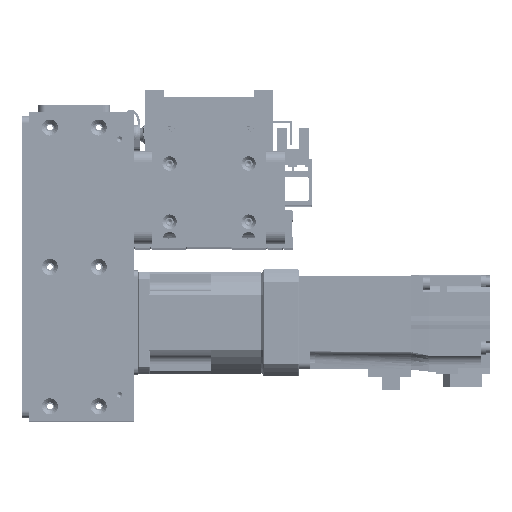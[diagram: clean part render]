
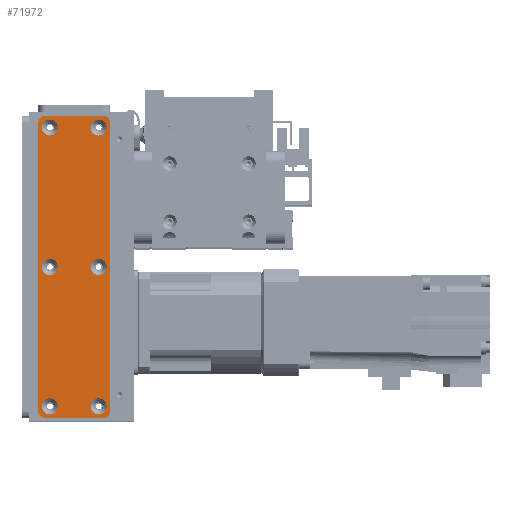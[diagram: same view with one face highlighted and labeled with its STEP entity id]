
A CAD part, top view. The second image highlights one B-rep face of the part: STEP entity #71972.
In plain terms, the highlighted planar face has unit normal (0, 0, 1).
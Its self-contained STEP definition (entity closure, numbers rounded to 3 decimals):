
#1890=FACE_BOUND('',#12620,.T.);
#1891=FACE_BOUND('',#12621,.T.);
#1892=FACE_BOUND('',#12622,.T.);
#1893=FACE_BOUND('',#12623,.T.);
#1894=FACE_BOUND('',#12624,.T.);
#1895=FACE_BOUND('',#12625,.T.);
#4382=PLANE('',#79078);
#8147=FACE_OUTER_BOUND('',#12619,.T.);
#12619=EDGE_LOOP('',(#67223,#67224,#67225,#67226,#67227,#67228,#67229,#67230));
#12620=EDGE_LOOP('',(#67231));
#12621=EDGE_LOOP('',(#67232));
#12622=EDGE_LOOP('',(#67233));
#12623=EDGE_LOOP('',(#67234));
#12624=EDGE_LOOP('',(#67235));
#12625=EDGE_LOOP('',(#67236));
#15285=CIRCLE('',#79032,3.45);
#15288=CIRCLE('',#79037,3.45);
#15291=CIRCLE('',#79042,3.45);
#15294=CIRCLE('',#79047,3.45);
#15297=CIRCLE('',#79052,3.45);
#15300=CIRCLE('',#79057,3.45);
#15307=CIRCLE('',#79067,3.);
#15308=CIRCLE('',#79070,3.);
#15309=CIRCLE('',#79073,3.);
#15310=CIRCLE('',#79076,3.);
#22685=LINE('',#124133,#30069);
#22688=LINE('',#124141,#30072);
#22691=LINE('',#124149,#30075);
#22694=LINE('',#124156,#30078);
#30069=VECTOR('',#98912,10.);
#30072=VECTOR('',#98921,10.);
#30075=VECTOR('',#98930,10.);
#30078=VECTOR('',#98939,10.);
#36744=VERTEX_POINT('',#124049);
#36747=VERTEX_POINT('',#124059);
#36750=VERTEX_POINT('',#124069);
#36753=VERTEX_POINT('',#124079);
#36756=VERTEX_POINT('',#124089);
#36759=VERTEX_POINT('',#124099);
#36770=VERTEX_POINT('',#124126);
#36771=VERTEX_POINT('',#124128);
#36772=VERTEX_POINT('',#124132);
#36773=VERTEX_POINT('',#124136);
#36774=VERTEX_POINT('',#124140);
#36775=VERTEX_POINT('',#124144);
#36776=VERTEX_POINT('',#124148);
#36777=VERTEX_POINT('',#124152);
#46877=EDGE_CURVE('',#36744,#36744,#15285,.T.);
#46882=EDGE_CURVE('',#36747,#36747,#15288,.T.);
#46887=EDGE_CURVE('',#36750,#36750,#15291,.T.);
#46892=EDGE_CURVE('',#36753,#36753,#15294,.T.);
#46897=EDGE_CURVE('',#36756,#36756,#15297,.T.);
#46902=EDGE_CURVE('',#36759,#36759,#15300,.T.);
#46916=EDGE_CURVE('',#36771,#36770,#15307,.T.);
#46918=EDGE_CURVE('',#36772,#36771,#22685,.T.);
#46920=EDGE_CURVE('',#36773,#36772,#15308,.T.);
#46922=EDGE_CURVE('',#36774,#36773,#22688,.T.);
#46924=EDGE_CURVE('',#36775,#36774,#15309,.T.);
#46926=EDGE_CURVE('',#36776,#36775,#22691,.T.);
#46928=EDGE_CURVE('',#36777,#36776,#15310,.T.);
#46930=EDGE_CURVE('',#36770,#36777,#22694,.T.);
#67223=ORIENTED_EDGE('',*,*,#46930,.T.);
#67224=ORIENTED_EDGE('',*,*,#46928,.T.);
#67225=ORIENTED_EDGE('',*,*,#46926,.T.);
#67226=ORIENTED_EDGE('',*,*,#46924,.T.);
#67227=ORIENTED_EDGE('',*,*,#46922,.T.);
#67228=ORIENTED_EDGE('',*,*,#46920,.T.);
#67229=ORIENTED_EDGE('',*,*,#46918,.T.);
#67230=ORIENTED_EDGE('',*,*,#46916,.T.);
#67231=ORIENTED_EDGE('',*,*,#46877,.T.);
#67232=ORIENTED_EDGE('',*,*,#46882,.T.);
#67233=ORIENTED_EDGE('',*,*,#46887,.T.);
#67234=ORIENTED_EDGE('',*,*,#46892,.T.);
#67235=ORIENTED_EDGE('',*,*,#46897,.T.);
#67236=ORIENTED_EDGE('',*,*,#46902,.T.);
#71972=ADVANCED_FACE('',(#8147,#1890,#1891,#1892,#1893,#1894,#1895),#4382,
 .T.);
#79032=AXIS2_PLACEMENT_3D('',#124050,#98820,#98821);
#79037=AXIS2_PLACEMENT_3D('',#124060,#98832,#98833);
#79042=AXIS2_PLACEMENT_3D('',#124070,#98844,#98845);
#79047=AXIS2_PLACEMENT_3D('',#124080,#98856,#98857);
#79052=AXIS2_PLACEMENT_3D('',#124090,#98868,#98869);
#79057=AXIS2_PLACEMENT_3D('',#124100,#98880,#98881);
#79067=AXIS2_PLACEMENT_3D('',#124129,#98907,#98908);
#79070=AXIS2_PLACEMENT_3D('',#124137,#98916,#98917);
#79073=AXIS2_PLACEMENT_3D('',#124145,#98925,#98926);
#79076=AXIS2_PLACEMENT_3D('',#124153,#98934,#98935);
#79078=AXIS2_PLACEMENT_3D('',#124157,#98940,#98941);
#98820=DIRECTION('center_axis',(0.,0.,-1.));
#98821=DIRECTION('ref_axis',(1.,0.,0.));
#98832=DIRECTION('center_axis',(0.,0.,-1.));
#98833=DIRECTION('ref_axis',(1.,0.,0.));
#98844=DIRECTION('center_axis',(0.,0.,-1.));
#98845=DIRECTION('ref_axis',(1.,0.,0.));
#98856=DIRECTION('center_axis',(0.,0.,-1.));
#98857=DIRECTION('ref_axis',(1.,0.,0.));
#98868=DIRECTION('center_axis',(0.,0.,-1.));
#98869=DIRECTION('ref_axis',(1.,0.,0.));
#98880=DIRECTION('center_axis',(0.,0.,-1.));
#98881=DIRECTION('ref_axis',(1.,0.,0.));
#98907=DIRECTION('center_axis',(0.,0.,1.));
#98908=DIRECTION('ref_axis',(0.,1.,0.));
#98912=DIRECTION('',(-1.,0.,0.));
#98916=DIRECTION('center_axis',(0.,0.,1.));
#98917=DIRECTION('ref_axis',(1.,0.,0.));
#98921=DIRECTION('',(0.,1.,0.));
#98925=DIRECTION('center_axis',(0.,0.,1.));
#98926=DIRECTION('ref_axis',(0.,-1.,0.));
#98930=DIRECTION('',(1.,0.,0.));
#98934=DIRECTION('center_axis',(0.,0.,1.));
#98935=DIRECTION('ref_axis',(-1.,0.,0.));
#98939=DIRECTION('',(0.,-1.,0.));
#98940=DIRECTION('center_axis',(0.,0.,1.));
#98941=DIRECTION('ref_axis',(1.,0.,0.));
#124049=CARTESIAN_POINT('',(-3.45,10.5,1.5));
#124050=CARTESIAN_POINT('Origin',(0.,10.5,1.5));
#124059=CARTESIAN_POINT('',(56.55,-10.5,1.5));
#124060=CARTESIAN_POINT('Origin',(60.,-10.5,1.5));
#124069=CARTESIAN_POINT('',(-63.45,10.5,1.5));
#124070=CARTESIAN_POINT('Origin',(-60.,10.5,1.5));
#124079=CARTESIAN_POINT('',(56.55,10.5,1.5));
#124080=CARTESIAN_POINT('Origin',(60.,10.5,1.5));
#124089=CARTESIAN_POINT('',(-63.45,-10.5,1.5));
#124090=CARTESIAN_POINT('Origin',(-60.,-10.5,1.5));
#124099=CARTESIAN_POINT('',(-3.45,-10.5,1.5));
#124100=CARTESIAN_POINT('Origin',(0.,-10.5,1.5));
#124126=CARTESIAN_POINT('',(-65.,12.5,1.5));
#124128=CARTESIAN_POINT('',(-62.,15.5,1.5));
#124129=CARTESIAN_POINT('Origin',(-62.,12.5,1.5));
#124132=CARTESIAN_POINT('',(62.,15.5,1.5));
#124133=CARTESIAN_POINT('',(62.,15.5,1.5));
#124136=CARTESIAN_POINT('',(65.,12.5,1.5));
#124137=CARTESIAN_POINT('Origin',(62.,12.5,1.5));
#124140=CARTESIAN_POINT('',(65.,-12.5,1.5));
#124141=CARTESIAN_POINT('',(65.,-12.5,1.5));
#124144=CARTESIAN_POINT('',(62.,-15.5,1.5));
#124145=CARTESIAN_POINT('Origin',(62.,-12.5,1.5));
#124148=CARTESIAN_POINT('',(-62.,-15.5,1.5));
#124149=CARTESIAN_POINT('',(-62.,-15.5,1.5));
#124152=CARTESIAN_POINT('',(-65.,-12.5,1.5));
#124153=CARTESIAN_POINT('Origin',(-62.,-12.5,1.5));
#124156=CARTESIAN_POINT('',(-65.,12.5,1.5));
#124157=CARTESIAN_POINT('Origin',(0.,0.,
1.5));
